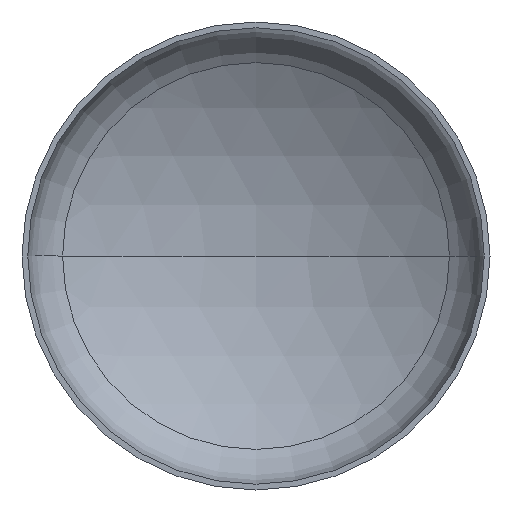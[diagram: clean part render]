
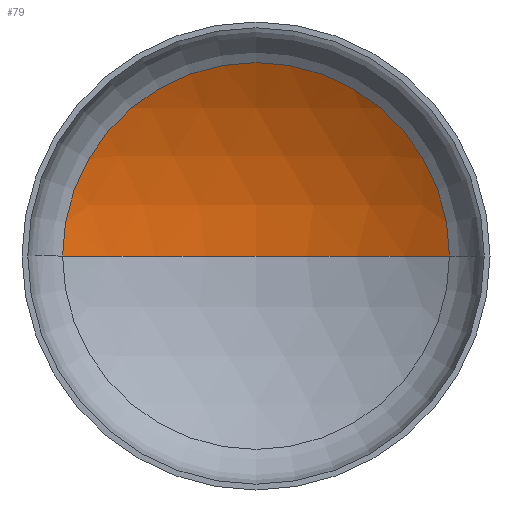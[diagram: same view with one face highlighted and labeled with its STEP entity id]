
A CAD part, front view. The second image highlights one B-rep face of the part: STEP entity #79.
In plain terms, the highlighted spherical face has radius 2080 mm.
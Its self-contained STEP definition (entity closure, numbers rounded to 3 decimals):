
#2 = CARTESIAN_POINT ( 'NONE',  ( -1074.667, 442.475, 0. ) ) ;
#3 = AXIS2_PLACEMENT_3D ( 'NONE', #176, #377, #208 ) ;
#4 = CIRCLE ( 'NONE', #3, 2080. ) ;
#16 = AXIS2_PLACEMENT_3D ( 'NONE', #169, #370, #149 ) ;
#57 = CARTESIAN_POINT ( 'NONE',  ( 1074.667, 442.475, 0. ) ) ;
#79 = ADVANCED_FACE ( 'NONE', ( #266 ), #111, .F. ) ;
#86 = AXIS2_PLACEMENT_3D ( 'NONE', #351, #190, #187 ) ;
#108 = DIRECTION ( 'NONE',  ( 0., 0., -1. ) ) ;
#111 = SPHERICAL_SURFACE ( 'NONE', #86, 2080. ) ;
#149 = DIRECTION ( 'NONE',  ( 1., 0., 0. ) ) ;
#169 = CARTESIAN_POINT ( 'NONE',  ( 0., 442.475, 0. ) ) ;
#176 = CARTESIAN_POINT ( 'NONE',  ( 0., -1338.394, 0. ) ) ;
#185 = VERTEX_POINT ( 'NONE', #241 ) ;
#187 = DIRECTION ( 'NONE',  ( -1., 0., 0. ) ) ;
#190 = DIRECTION ( 'NONE',  ( 0., 0., -1. ) ) ;
#208 = DIRECTION ( 'NONE',  ( 1., 0., 0. ) ) ;
#225 = DIRECTION ( 'NONE',  ( -1., 0., 0. ) ) ;
#230 = VERTEX_POINT ( 'NONE', #2 ) ;
#241 = CARTESIAN_POINT ( 'NONE',  ( 0., 741.606, 0. ) ) ;
#260 = CIRCLE ( 'NONE', #319, 2080. ) ;
#262 = ORIENTED_EDGE ( 'NONE', *, *, #375, .T. ) ;
#266 = FACE_OUTER_BOUND ( 'NONE', #294, .T. ) ;
#279 = CIRCLE ( 'NONE', #16, 1074.667 ) ;
#287 = CARTESIAN_POINT ( 'NONE',  ( 0., -1338.394, 0. ) ) ;
#294 = EDGE_LOOP ( 'NONE', ( #325, #262, #381 ) ) ;
#319 = AXIS2_PLACEMENT_3D ( 'NONE', #287, #108, #225 ) ;
#325 = ORIENTED_EDGE ( 'NONE', *, *, #368, .F. ) ;
#326 = EDGE_CURVE ( 'NONE', #358, #230, #279, .T. ) ;
#351 = CARTESIAN_POINT ( 'NONE',  ( 0., -1338.394, 0. ) ) ;
#358 = VERTEX_POINT ( 'NONE', #57 ) ;
#368 = EDGE_CURVE ( 'NONE', #185, #230, #4, .T. ) ;
#370 = DIRECTION ( 'NONE',  ( 0., -1., 0. ) ) ;
#375 = EDGE_CURVE ( 'NONE', #185, #358, #260, .T. ) ;
#377 = DIRECTION ( 'NONE',  ( 0., 0., 1. ) ) ;
#381 = ORIENTED_EDGE ( 'NONE', *, *, #326, .T. ) ;
